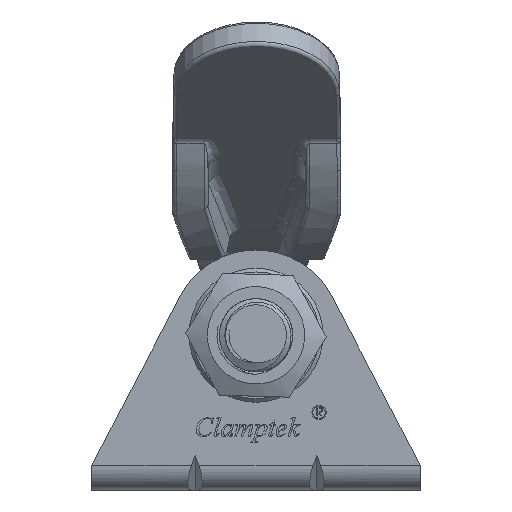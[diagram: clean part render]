
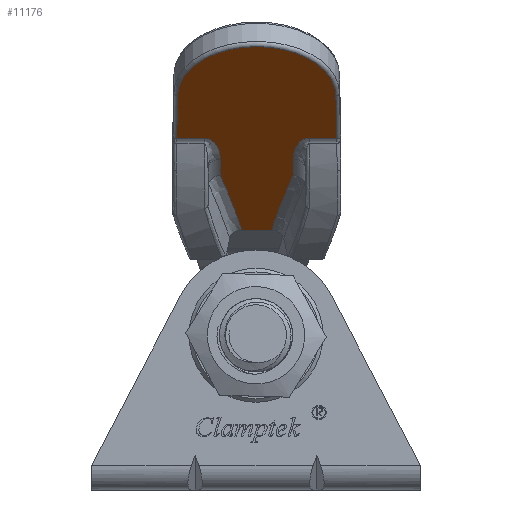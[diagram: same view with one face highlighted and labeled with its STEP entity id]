
A CAD part, left-side view. The second image highlights one B-rep face of the part: STEP entity #11176.
In plain terms, the highlighted planar face has unit normal (-0.623, 0, -0.782) as drawn and (-0.703, -0.712, 0) by its records, which use the part's own axes.
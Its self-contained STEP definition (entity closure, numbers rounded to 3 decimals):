
#397=ELLIPSE('',#11975,72.063,48.069);
#398=ELLIPSE('',#11976,72.063,48.069);
#839=B_SPLINE_CURVE_WITH_KNOTS('',3,(#27723,#27724,#27725,#27726,#27727,
#27728,#27729,#27730,#27731,#27732,#27733,#27734,#27735,#27736),
 .UNSPECIFIED.,.F.,.F.,(4,2,2,2,2,2,4),(0.,0.001,0.002,
0.002,0.003,0.003,0.003),
 .UNSPECIFIED.);
#840=B_SPLINE_CURVE_WITH_KNOTS('',3,(#27745,#27746,#27747,#27748,#27749,
#27750,#27751,#27752,#27753,#27754,#27755,#27756),.UNSPECIFIED.,.F.,.F.,
(4,2,2,2,2,4),(0.,0.,0.001,0.002,
0.003,0.003),.UNSPECIFIED.);
#1217=PLANE('',#11974);
#1726=FACE_OUTER_BOUND('',#2385,.T.);
#2385=EDGE_LOOP('',(#9884,#9885,#9886,#9887,#9888,#9889,#9890,#9891,#9892,
#9893,#9894,#9895));
#3267=LINE('',#27457,#4102);
#3285=LINE('',#27738,#4120);
#3286=LINE('',#27739,#4121);
#3287=LINE('',#27741,#4122);
#3288=LINE('',#27743,#4123);
#3289=LINE('',#27758,#4124);
#3290=LINE('',#27762,#4125);
#4102=VECTOR('',#13817,1000.);
#4120=VECTOR('',#13903,1000.);
#4121=VECTOR('',#13904,1000.);
#4122=VECTOR('',#13905,1000.);
#4123=VECTOR('',#13906,1000.);
#4124=VECTOR('',#13907,1000.);
#4125=VECTOR('',#13912,1000.);
#4326=CIRCLE('',#11931,6.5);
#5296=VERTEX_POINT('',#27344);
#5297=VERTEX_POINT('',#27345);
#5314=VERTEX_POINT('',#27445);
#5315=VERTEX_POINT('',#27456);
#5362=VERTEX_POINT('',#27721);
#5363=VERTEX_POINT('',#27722);
#5364=VERTEX_POINT('',#27737);
#5365=VERTEX_POINT('',#27740);
#5366=VERTEX_POINT('',#27742);
#5367=VERTEX_POINT('',#27744);
#5368=VERTEX_POINT('',#27757);
#5369=VERTEX_POINT('',#27760);
#6840=EDGE_CURVE('',#5296,#5297,#4326,.T.);
#6860=EDGE_CURVE('',#5314,#5315,#3267,.T.);
#6920=EDGE_CURVE('',#5362,#5363,#839,.T.);
#6921=EDGE_CURVE('',#5363,#5364,#3285,.T.);
#6922=EDGE_CURVE('',#5364,#5296,#3286,.T.);
#6923=EDGE_CURVE('',#5297,#5365,#3287,.T.);
#6924=EDGE_CURVE('',#5365,#5366,#3288,.T.);
#6925=EDGE_CURVE('',#5366,#5367,#840,.T.);
#6926=EDGE_CURVE('',#5367,#5368,#3289,.T.);
#6927=EDGE_CURVE('',#5368,#5315,#397,.T.);
#6928=EDGE_CURVE('',#5314,#5369,#398,.T.);
#6929=EDGE_CURVE('',#5369,#5362,#3290,.T.);
#9884=ORIENTED_EDGE('',*,*,#6920,.T.);
#9885=ORIENTED_EDGE('',*,*,#6921,.T.);
#9886=ORIENTED_EDGE('',*,*,#6922,.T.);
#9887=ORIENTED_EDGE('',*,*,#6840,.T.);
#9888=ORIENTED_EDGE('',*,*,#6923,.T.);
#9889=ORIENTED_EDGE('',*,*,#6924,.T.);
#9890=ORIENTED_EDGE('',*,*,#6925,.T.);
#9891=ORIENTED_EDGE('',*,*,#6926,.T.);
#9892=ORIENTED_EDGE('',*,*,#6927,.T.);
#9893=ORIENTED_EDGE('',*,*,#6860,.F.);
#9894=ORIENTED_EDGE('',*,*,#6928,.T.);
#9895=ORIENTED_EDGE('',*,*,#6929,.T.);
#11176=ADVANCED_FACE('',(#1726),#1217,.F.);
#11931=AXIS2_PLACEMENT_3D('',#27346,#13792,#13793);
#11974=AXIS2_PLACEMENT_3D('',#27720,#13901,#13902);
#11975=AXIS2_PLACEMENT_3D('',#27759,#13908,#13909);
#11976=AXIS2_PLACEMENT_3D('',#27761,#13910,#13911);
#13792=DIRECTION('center_axis',(-0.703,-0.712,0.));
#13793=DIRECTION('ref_axis',(-0.712,0.703,0.));
#13817=DIRECTION('',(0.,0.,-1.));
#13901=DIRECTION('center_axis',(0.703,0.712,0.));
#13902=DIRECTION('ref_axis',(-0.712,0.703,0.));
#13903=DIRECTION('',(0.,0.,1.));
#13904=DIRECTION('',(-0.712,0.702,-0.012));
#13905=DIRECTION('',(0.712,-0.702,-0.012));
#13906=DIRECTION('',(0.,0.,1.));
#13907=DIRECTION('',(0.712,-0.703,0.));
#13908=DIRECTION('center_axis',(0.703,0.712,0.));
#13909=DIRECTION('ref_axis',(0.708,-0.699,0.103));
#13910=DIRECTION('center_axis',(0.703,0.712,0.));
#13911=DIRECTION('ref_axis',(0.708,-0.699,-0.103));
#13912=DIRECTION('',(-0.712,0.703,0.));
#27344=CARTESIAN_POINT('',(-36.657,24.679,21.499));
#27345=CARTESIAN_POINT('',(-36.657,24.679,8.499));
#27346=CARTESIAN_POINT('Origin',(-36.659,24.681,14.999));
#27445=CARTESIAN_POINT('',(-24.071,12.254,16.222));
#27456=CARTESIAN_POINT('',(-24.071,12.254,13.778));
#27457=CARTESIAN_POINT('',(-24.071,12.254,0.));
#27720=CARTESIAN_POINT('Origin',(-48.763,36.629,0.));
#27721=CARTESIAN_POINT('',(-30.717,18.815,18.));
#27722=CARTESIAN_POINT('',(-32.702,20.775,19.3));
#27723=CARTESIAN_POINT('Ctrl Pts',(-30.717,18.815,18.));
#27724=CARTESIAN_POINT('Ctrl Pts',(-30.915,19.01,18.));
#27725=CARTESIAN_POINT('Ctrl Pts',(-31.112,19.205,18.015));
#27726=CARTESIAN_POINT('Ctrl Pts',(-31.502,19.59,18.084));
#27727=CARTESIAN_POINT('Ctrl Pts',(-31.696,19.781,18.138));
#27728=CARTESIAN_POINT('Ctrl Pts',(-32.074,20.155,18.309));
#27729=CARTESIAN_POINT('Ctrl Pts',(-32.259,20.337,18.425));
#27730=CARTESIAN_POINT('Ctrl Pts',(-32.493,20.568,18.683));
#27731=CARTESIAN_POINT('Ctrl Pts',(-32.563,20.638,18.784));
#27732=CARTESIAN_POINT('Ctrl Pts',(-32.643,20.716,18.963));
#27733=CARTESIAN_POINT('Ctrl Pts',(-32.664,20.737,19.026));
#27734=CARTESIAN_POINT('Ctrl Pts',(-32.694,20.767,19.159));
#27735=CARTESIAN_POINT('Ctrl Pts',(-32.702,20.775,19.229));
#27736=CARTESIAN_POINT('Ctrl Pts',(-32.702,20.775,19.3));
#27737=CARTESIAN_POINT('',(-32.702,20.775,21.566));
#27738=CARTESIAN_POINT('',(-32.702,20.775,0.));
#27739=CARTESIAN_POINT('',(-48.946,36.81,21.29));
#27740=CARTESIAN_POINT('',(-32.702,20.775,8.433));
#27741=CARTESIAN_POINT('',(-48.69,36.557,8.697));
#27742=CARTESIAN_POINT('',(-32.702,20.775,10.7));
#27743=CARTESIAN_POINT('',(-32.702,20.775,0.));
#27744=CARTESIAN_POINT('',(-30.717,18.815,12.));
#27745=CARTESIAN_POINT('Ctrl Pts',(-32.702,20.775,10.7));
#27746=CARTESIAN_POINT('Ctrl Pts',(-32.702,20.775,10.842));
#27747=CARTESIAN_POINT('Ctrl Pts',(-32.669,20.742,10.978));
#27748=CARTESIAN_POINT('Ctrl Pts',(-32.563,20.638,11.216));
#27749=CARTESIAN_POINT('Ctrl Pts',(-32.493,20.568,11.317));
#27750=CARTESIAN_POINT('Ctrl Pts',(-32.257,20.336,11.576));
#27751=CARTESIAN_POINT('Ctrl Pts',(-32.074,20.155,11.691));
#27752=CARTESIAN_POINT('Ctrl Pts',(-31.696,19.782,11.862));
#27753=CARTESIAN_POINT('Ctrl Pts',(-31.503,19.591,11.916));
#27754=CARTESIAN_POINT('Ctrl Pts',(-31.113,19.206,11.985));
#27755=CARTESIAN_POINT('Ctrl Pts',(-30.915,19.01,12.));
#27756=CARTESIAN_POINT('Ctrl Pts',(-30.717,18.815,12.));
#27757=CARTESIAN_POINT('',(-29.219,17.336,12.));
#27758=CARTESIAN_POINT('',(-48.763,36.629,12.));
#27759=CARTESIAN_POINT('Origin',(-12.819,1.147,-32.348));
#27760=CARTESIAN_POINT('',(-29.219,17.336,18.));
#27761=CARTESIAN_POINT('Origin',(-12.819,1.147,62.348));
#27762=CARTESIAN_POINT('',(-48.763,36.629,18.));
